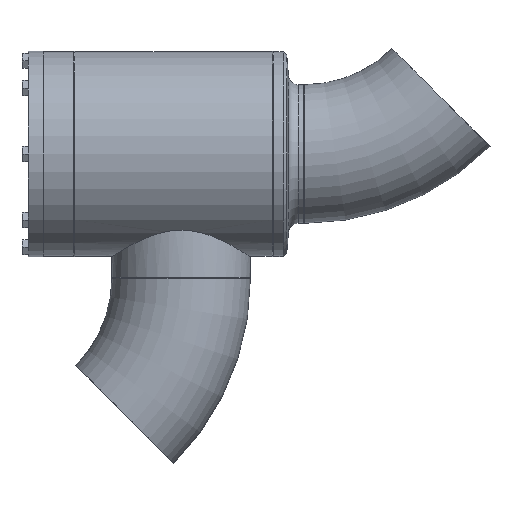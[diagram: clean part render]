
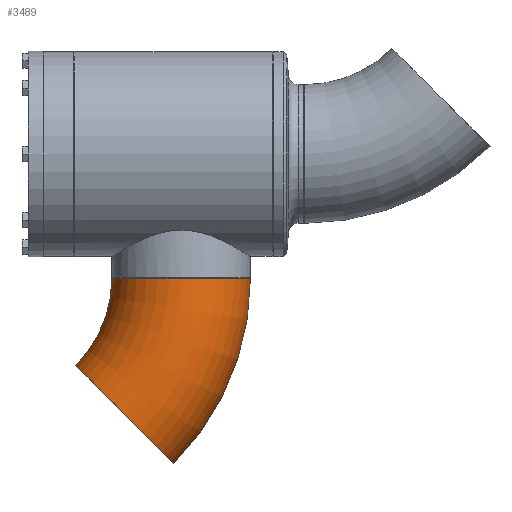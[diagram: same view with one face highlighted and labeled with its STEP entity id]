
A CAD part, left-side view. The second image highlights one B-rep face of the part: STEP entity #3489.
In plain terms, the highlighted toroidal (fillet/blend) face has major radius 305 mm and minor radius 109.55 mm.
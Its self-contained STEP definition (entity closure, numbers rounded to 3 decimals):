
#1054 = CIRCLE ( 'NONE', #1055, 414.55 ) ;
#1055 = AXIS2_PLACEMENT_3D ( 'NONE', #1056, #1057, #1058 ) ;
#1056 = CARTESIAN_POINT ( 'NONE',  ( 0., -305., 0. ) ) ;
#1057 = DIRECTION ( 'NONE',  ( 0., 0., 1. ) ) ;
#1058 = DIRECTION ( 'NONE',  ( 1., 0., 0. ) ) ;
#1584 = CIRCLE ( 'NONE', #1585, 109.55 ) ;
#1585 = AXIS2_PLACEMENT_3D ( 'NONE', #1586, #1587, #1588 ) ;
#1586 = CARTESIAN_POINT ( 'NONE',  ( 215.668, -89.332, 0. ) ) ;
#1587 = DIRECTION ( 'NONE',  ( 0.707, -0.707, 0. ) ) ;
#1588 = DIRECTION ( 'NONE',  ( 0., 0., -1. ) ) ;
#1918 = CARTESIAN_POINT ( 'NONE',  ( 0., -109.55, 0. ) ) ;
#1944 = EDGE_CURVE ( 'NONE', #3734, #3819, #7066, .T. ) ;
#2057 = CARTESIAN_POINT ( 'NONE',  ( 138.204, -166.796, 0. ) ) ;
#2287 = ORIENTED_EDGE ( 'NONE', *, *, #1944, .T. ) ;
#2440 = CARTESIAN_POINT ( 'NONE',  ( 293.131, -11.869, 0. ) ) ;
#2736 = ORIENTED_EDGE ( 'NONE', *, *, #3914, .T. ) ;
#2909 = EDGE_CURVE ( 'NONE', #3416, #3819, #1054, .T. ) ;
#3376 = EDGE_CURVE ( 'NONE', #3395, #3416, #1584, .T. ) ;
#3395 = VERTEX_POINT ( 'NONE', #2057 ) ;
#3397 = ORIENTED_EDGE ( 'NONE', *, *, #3376, .F. ) ;
#3416 = VERTEX_POINT ( 'NONE', #2440 ) ;
#3436 = ORIENTED_EDGE ( 'NONE', *, *, #2909, .F. ) ;
#3474 = EDGE_LOOP ( 'NONE', ( #3436, #3397, #2736, #2287 ) ) ;
#3489 = ADVANCED_FACE ( 'NONE', ( #4882 ), #4883, .T. ) ;
#3734 = VERTEX_POINT ( 'NONE', #1918 ) ;
#3819 = VERTEX_POINT ( 'NONE', #4479 ) ;
#3914 = EDGE_CURVE ( 'NONE', #3395, #3734, #6022, .T. ) ;
#4479 = CARTESIAN_POINT ( 'NONE',  ( 0., 109.55, 0. ) ) ;
#4882 = FACE_OUTER_BOUND ( 'NONE', #3474, .T. ) ;
#4883 = TOROIDAL_SURFACE ( 'NONE', #4884, 305., 109.55 ) ;
#4884 = AXIS2_PLACEMENT_3D ( 'NONE', #4885, #4886, #4887 ) ;
#4885 = CARTESIAN_POINT ( 'NONE',  ( 0., -305., 0. ) ) ;
#4886 = DIRECTION ( 'NONE',  ( 0., 0., 1. ) ) ;
#4887 = DIRECTION ( 'NONE',  ( 1., 0., 0. ) ) ;
#6022 = CIRCLE ( 'NONE', #6023, 195.45 ) ;
#6023 = AXIS2_PLACEMENT_3D ( 'NONE', #6024, #6025, #6026 ) ;
#6024 = CARTESIAN_POINT ( 'NONE',  ( 0., -305., 0. ) ) ;
#6025 = DIRECTION ( 'NONE',  ( 0., 0., 1. ) ) ;
#6026 = DIRECTION ( 'NONE',  ( 1., 0., 0. ) ) ;
#7066 = CIRCLE ( 'NONE', #7067, 109.55 ) ;
#7067 = AXIS2_PLACEMENT_3D ( 'NONE', #7068, #7069, #7070 ) ;
#7068 = CARTESIAN_POINT ( 'NONE',  ( 0., 0., 0. ) ) ;
#7069 = DIRECTION ( 'NONE',  ( 1., 0., 0. ) ) ;
#7070 = DIRECTION ( 'NONE',  ( 0., 0., -1. ) ) ;
